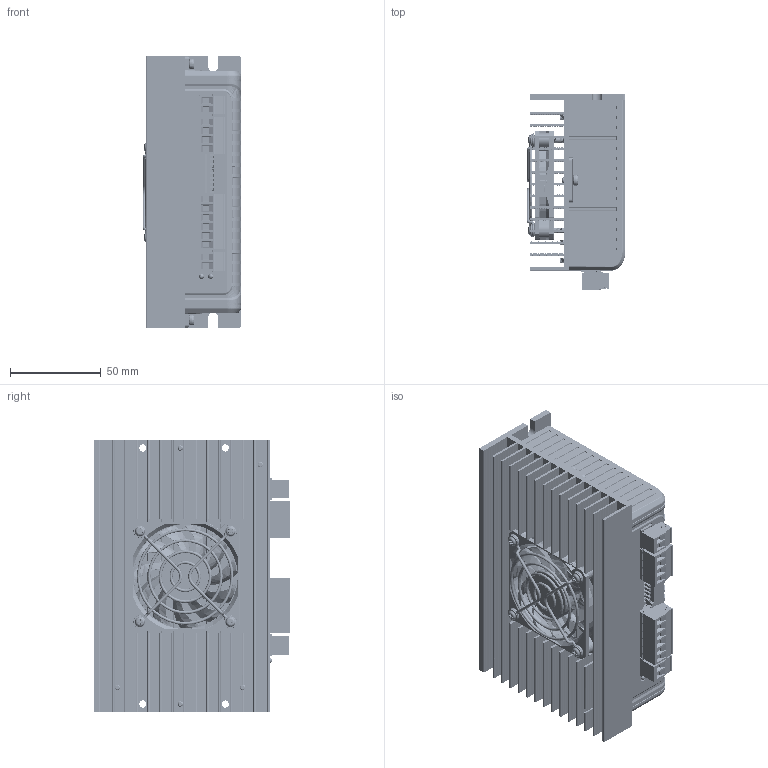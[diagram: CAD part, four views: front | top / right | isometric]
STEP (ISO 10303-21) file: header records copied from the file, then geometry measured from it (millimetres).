
FILE_DESCRIPTION (( 'STEP AP214' ), '1' );
FILE_NAME ('2DM860.STEP', '2018-01-11T09:20:43', ( '' ), ( '' ), 'SwSTEP 2.0', 'SolidWorks 2016', '' );
FILE_SCHEMA (( 'AUTOMOTIVE_DESIGN' ));
Length unit declared in the file: millimetre
Products named in the file (18): 2DM860裔赽; M3; 埴芛湍簽M3x20; MSTB 2,5-4-G-5,08; MSTB 2,5-6-G-5,08; Dip_Switch_Piano_8ways; TB5_08-2R; 86散热器; two led; 5.08 2way; 2HSS86 PCB; 2DM860; 60FAN GUARD; RJ21; 5.08 6way; 60x60x10FAN; 5.08 4way; M3x6埴芛蹟佪
Assembly tree (25 placements, depth 2):
  2DM860
    86散热器
    M3  x3
    2HSS86 PCB
    60x60x10FAN
    60FAN GUARD
    埴芛湍簽M3x20  x4
    TB5_08-2R  x2
    MSTB 2,5-6-G-5,08
    MSTB 2,5-4-G-5,08
    two led
    Dip_Switch_Piano_8ways
    RJ21
    5.08 2way  x2
    5.08 4way
    5.08 6way
    2DM860裔赽
    M3x6埴芛蹟佪  x2
Bounding box: 54.6 x 108.5 x 150 mm (x, y, z)
Volume: 173441.5 mm3; surface area: 218252.5 mm2
Topology: 17 solids, 80 shells, 6889 faces, 19344 edges, 12444 vertices
Faces by surface type: plane 3635, cylinder 1922, bspline 964, torus 231, cone 84, sphere 53
Entity records: 300994 total; most frequent: CARTESIAN_POINT 114905, ORIENTED_EDGE 32815, DIRECTION 26811, EDGE_CURVE 17092, VERTEX_POINT 11029, LINE 10141, VECTOR 10141, AXIS2_PLACEMENT_3D 8335
